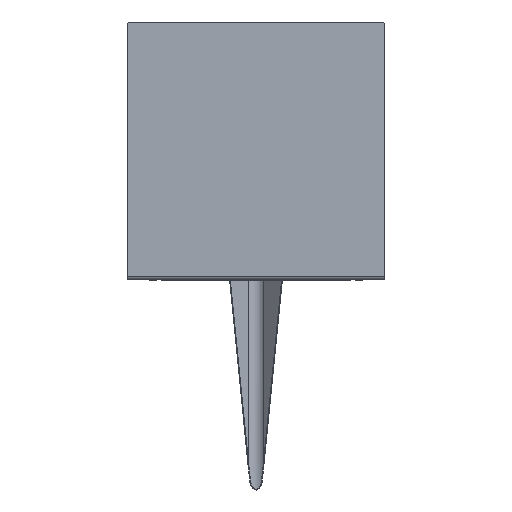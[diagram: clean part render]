
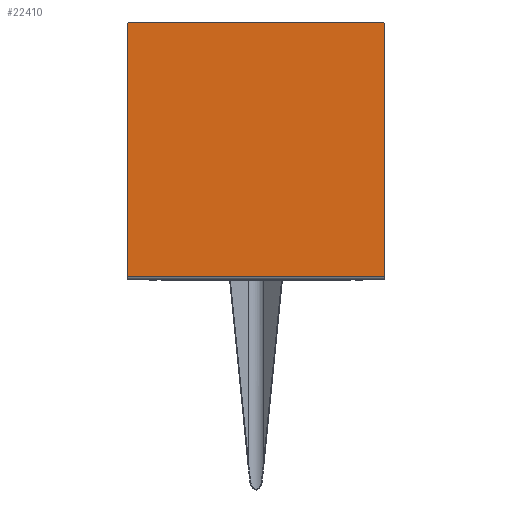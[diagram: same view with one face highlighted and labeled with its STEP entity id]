
A CAD part, top view. The second image highlights one B-rep face of the part: STEP entity #22410.
In plain terms, the highlighted planar face has unit normal (0, 0, 1).
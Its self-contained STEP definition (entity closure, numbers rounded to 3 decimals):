
#2766=LINE('',#29439,#5476);
#2781=LINE('',#29475,#5491);
#2784=LINE('',#29481,#5494);
#2785=LINE('',#29485,#5495);
#5476=VECTOR('',#24618,25.);
#5491=VECTOR('',#24657,24.4);
#5494=VECTOR('',#24662,24.4);
#5495=VECTOR('',#24665,24.4);
#8171=FACE_OUTER_BOUND('',#9018,.T.);
#9018=EDGE_LOOP('',(#18229,#18230,#18231,#18232,#18233,#18234));
#9902=CIRCLE('',#23318,0.3);
#9903=CIRCLE('',#23319,0.3);
#10340=VERTEX_POINT('',#29436);
#10341=VERTEX_POINT('',#29438);
#10350=VERTEX_POINT('',#29474);
#10352=VERTEX_POINT('',#29480);
#10353=VERTEX_POINT('',#29482);
#10354=VERTEX_POINT('',#29484);
#14147=EDGE_CURVE('',#10341,#10340,#2766,.T.);
#14165=EDGE_CURVE('',#10350,#10341,#2781,.T.);
#14168=EDGE_CURVE('',#10340,#10352,#2784,.T.);
#14169=EDGE_CURVE('',#10352,#10353,#9902,.T.);
#14170=EDGE_CURVE('',#10353,#10354,#2785,.T.);
#14171=EDGE_CURVE('',#10354,#10350,#9903,.T.);
#18229=ORIENTED_EDGE('',*,*,#14147,.T.);
#18230=ORIENTED_EDGE('',*,*,#14168,.T.);
#18231=ORIENTED_EDGE('',*,*,#14169,.T.);
#18232=ORIENTED_EDGE('',*,*,#14170,.T.);
#18233=ORIENTED_EDGE('',*,*,#14171,.T.);
#18234=ORIENTED_EDGE('',*,*,#14165,.T.);
#21884=PLANE('',#23317);
#22410=ADVANCED_FACE('',(#8171),#21884,.F.);
#23317=AXIS2_PLACEMENT_3D('',#29479,#24660,#24661);
#23318=AXIS2_PLACEMENT_3D('',#29483,#24663,#24664);
#23319=AXIS2_PLACEMENT_3D('',#29486,#24666,#24667);
#24618=DIRECTION('',(1.,0.,0.));
#24657=DIRECTION('',(0.,-1.,0.));
#24660=DIRECTION('center_axis',(0.,0.,
-1.));
#24661=DIRECTION('ref_axis',(-1.,0.,0.));
#24662=DIRECTION('',(0.,1.,0.));
#24663=DIRECTION('center_axis',(0.,0.,
1.));
#24664=DIRECTION('ref_axis',(0.,-1.,0.));
#24665=DIRECTION('',(-1.,0.,0.));
#24666=DIRECTION('center_axis',(0.,0.,
1.));
#24667=DIRECTION('ref_axis',(1.,0.,0.));
#29436=CARTESIAN_POINT('',(12.5,0.35,3.588));
#29438=CARTESIAN_POINT('',(-12.5,0.35,3.588));
#29439=CARTESIAN_POINT('',(-6.25,0.35,3.588));
#29474=CARTESIAN_POINT('',(-12.5,24.75,3.588));
#29475=CARTESIAN_POINT('',(-12.5,24.75,3.588));
#29479=CARTESIAN_POINT('Origin',(0.,12.518,
3.588));
#29480=CARTESIAN_POINT('',(12.5,24.75,3.588));
#29481=CARTESIAN_POINT('',(12.5,0.05,3.588));
#29482=CARTESIAN_POINT('',(12.2,25.05,3.588));
#29483=CARTESIAN_POINT('Origin',(12.2,24.75,3.588));
#29484=CARTESIAN_POINT('',(-12.2,25.05,3.588));
#29485=CARTESIAN_POINT('',(12.2,25.05,3.588));
#29486=CARTESIAN_POINT('Origin',(-12.2,24.75,3.588));
